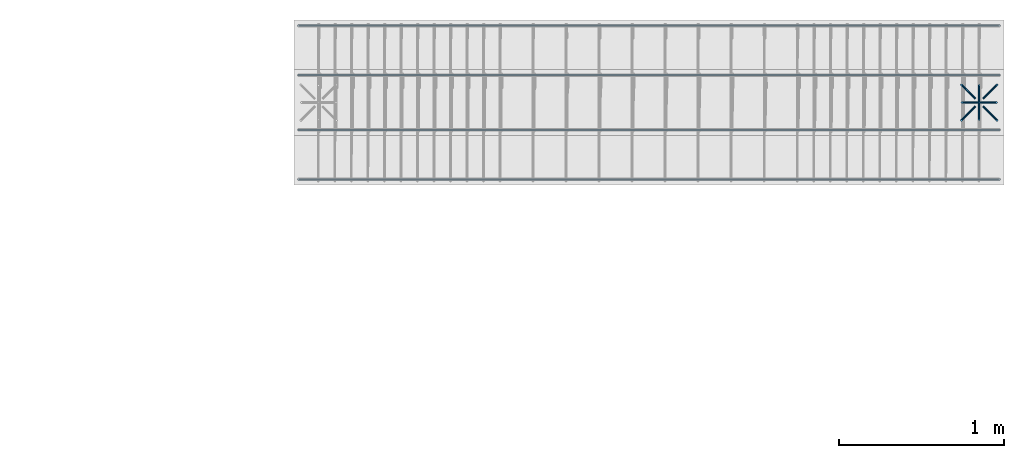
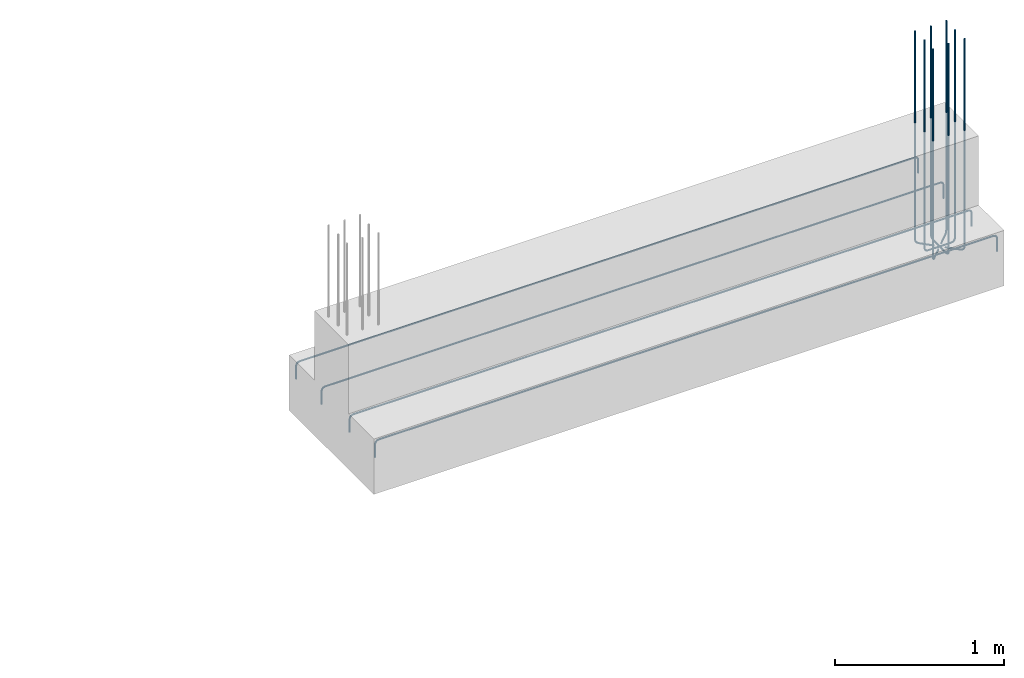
# One storey, part 23 of 23: 2 reinforcing bars.
"""IFC2X3 building model written with IfcOpenShell, lengths in metres."""

from ifc_helpers import new_model, entity, si_unit, direction, frame, origin, place, context, subcontext, project, spatial, shape, source, transform, mapped, element, save


model = new_model("IFC2X3")

# Units and contexts
model_context = context("Model", 3, precision=0.0, world=origin(), true_north=direction((0.0, 1.0)))
plan_context = context("Plan", 3, precision=0.0, world=origin(), true_north=direction((0.0, 1.0)))
body_context = subcontext(model_context, "Body", "Model", "MODEL_VIEW", scale=1.0)
ifc_project = project(units=[si_unit("LENGTHUNIT", "METRE"), si_unit("AREAUNIT", "SQUARE_METRE"), si_unit("VOLUMEUNIT", "CUBIC_METRE"), si_unit("PLANEANGLEUNIT", "RADIAN"), si_unit("THERMODYNAMICTEMPERATUREUNIT", "DEGREE_CELSIUS"), si_unit("FORCEUNIT", "NEWTON"), si_unit("MASSUNIT", "GRAM", prefix="KILO")], contexts=[model_context, plan_context])

# Site, building, storey
placement = place(None, origin())
site = spatial("IfcSite", under=ifc_project, at=placement, Name="Default Site", CompositionType="ELEMENT")
building = spatial("IfcBuilding", under=site, at=placement, Name="Default Building", CompositionType="ELEMENT")
storey_placement = place(placement, frame((0.0, 0.0, 0.0), z_axis=(1.0, 0.0, 0.0), x_axis=(0.0, 0.0, 1.0)))
storey = spatial("IfcBuildingStorey", under=building, at=storey_placement, Name="Piano 0", CompositionType="ELEMENT", Elevation=0.0)

# Reinforcing bars
shared_shape_1 = source(origin(), body_context, None, "AdvancedSweptSolid", [
    entity("IfcSweptDiskSolid", entity("IfcCompositeCurve", [entity("IfcCompositeCurveSegment", "CONTINUOUS", True, entity("IfcPolyline", [entity("IfcCartesianPoint", [0.0, 0.0, 0.0]), entity("IfcCartesianPoint", [0.0, 0.0, 0.096]), entity("IfcCartesianPoint", [0.003215, 0.0, 0.108]), entity("IfcCartesianPoint", [0.012, 0.0, 0.116785]), entity("IfcCartesianPoint", [0.024, 0.0, 0.12]), entity("IfcCartesianPoint", [0.122, 0.0, 0.12]), entity("IfcCartesianPoint", [4.122, 0.0, 0.12]), entity("IfcCartesianPoint", [4.22, 0.0, 0.12]), entity("IfcCartesianPoint", [4.232, 0.0, 0.116785]), entity("IfcCartesianPoint", [4.240785, 0.0, 0.108]), entity("IfcCartesianPoint", [4.244, 0.0, 0.096]), entity("IfcCartesianPoint", [4.244, 0.0, 0.0])]))], False), 0.006, 0.0, 0.0),
])
shared_shape_2 = source(origin(), body_context, None, "MappedRepresentation", [mapped(shared_shape_1, transform((32.378, 3.166, -0.662)))])
shared_shape_3 = source(origin(), body_context, None, "AdvancedSweptSolid", [
    entity("IfcSweptDiskSolid", entity("IfcCompositeCurve", [entity("IfcCompositeCurveSegment", "CONTINUOUS", True, entity("IfcPolyline", [entity("IfcCartesianPoint", [0.0, 0.0, 0.0]), entity("IfcCartesianPoint", [0.0, 0.0, 0.096]), entity("IfcCartesianPoint", [0.003215, 0.0, 0.108]), entity("IfcCartesianPoint", [0.012, 0.0, 0.116785]), entity("IfcCartesianPoint", [0.024, 0.0, 0.12]), entity("IfcCartesianPoint", [0.122, 0.0, 0.12]), entity("IfcCartesianPoint", [4.122, 0.0, 0.12]), entity("IfcCartesianPoint", [4.22, 0.0, 0.12]), entity("IfcCartesianPoint", [4.232, 0.0, 0.116785]), entity("IfcCartesianPoint", [4.240785, 0.0, 0.108]), entity("IfcCartesianPoint", [4.244, 0.0, 0.096]), entity("IfcCartesianPoint", [4.244, 0.0, 0.0])]))], False), 0.006, 0.0, 0.0),
])
shared_shape_4 = source(origin(), body_context, None, "MappedRepresentation", [mapped(shared_shape_3, transform((32.378, 3.466, -0.662)))])
shared_shape_5 = source(origin(), body_context, None, "AdvancedSweptSolid", [
    entity("IfcSweptDiskSolid", entity("IfcCompositeCurve", [entity("IfcCompositeCurveSegment", "CONTINUOUS", True, entity("IfcPolyline", [entity("IfcCartesianPoint", [0.0, 0.0, 0.0]), entity("IfcCartesianPoint", [0.0, 0.0, 0.096]), entity("IfcCartesianPoint", [0.003215, 0.0, 0.108]), entity("IfcCartesianPoint", [0.012, 0.0, 0.116785]), entity("IfcCartesianPoint", [0.024, 0.0, 0.12]), entity("IfcCartesianPoint", [0.122, 0.0, 0.12]), entity("IfcCartesianPoint", [4.122, 0.0, 0.12]), entity("IfcCartesianPoint", [4.22, 0.0, 0.12]), entity("IfcCartesianPoint", [4.232, 0.0, 0.116785]), entity("IfcCartesianPoint", [4.240785, 0.0, 0.108]), entity("IfcCartesianPoint", [4.244, 0.0, 0.096]), entity("IfcCartesianPoint", [4.244, 0.0, 0.0])]))], False), 0.006, 0.0, 0.0),
])
shared_shape_6 = source(origin(), body_context, None, "MappedRepresentation", [mapped(shared_shape_5, transform((32.378, 2.534, -0.662)))])
shared_shape_7 = source(origin(), body_context, None, "AdvancedSweptSolid", [
    entity("IfcSweptDiskSolid", entity("IfcCompositeCurve", [entity("IfcCompositeCurveSegment", "CONTINUOUS", True, entity("IfcPolyline", [entity("IfcCartesianPoint", [0.0, 0.0, 0.0]), entity("IfcCartesianPoint", [0.0, 0.0, 0.096]), entity("IfcCartesianPoint", [0.003215, 0.0, 0.108]), entity("IfcCartesianPoint", [0.012, 0.0, 0.116785]), entity("IfcCartesianPoint", [0.024, 0.0, 0.12]), entity("IfcCartesianPoint", [0.122, 0.0, 0.12]), entity("IfcCartesianPoint", [4.122, 0.0, 0.12]), entity("IfcCartesianPoint", [4.22, 0.0, 0.12]), entity("IfcCartesianPoint", [4.232, 0.0, 0.116785]), entity("IfcCartesianPoint", [4.240785, 0.0, 0.108]), entity("IfcCartesianPoint", [4.244, 0.0, 0.096]), entity("IfcCartesianPoint", [4.244, 0.0, 0.0])]))], False), 0.006, 0.0, 0.0),
])
shared_shape_8 = source(origin(), body_context, None, "MappedRepresentation", [mapped(shared_shape_7, transform((32.378, 2.834, -0.662)))])
element("IfcReinforcingBar", 1, at=placement, inside=storey, Name="Arm Generica; Trave:4 [Piano:0]", BarLength=17.91454, BarRole="NOTDEFINED", BarSurface="TEXTURED", NominalDiameter=0.012, shapes=[
    shape(body_context, None, "MappedRepresentation", [mapped(shared_shape_2, transform((0.0, 0.0, 0.0))), mapped(shared_shape_4, transform((0.0, 0.0, 0.0))), mapped(shared_shape_6, transform((0.0, 0.0, 0.0))), mapped(shared_shape_8, transform((0.0, 0.0, 0.0)))]),
])
shared_shape_9 = source(origin(), body_context, None, "AdvancedSweptSolid", [
    entity("IfcSweptDiskSolid", entity("IfcCompositeCurve", [entity("IfcCompositeCurveSegment", "CONTINUOUS", True, entity("IfcPolyline", [entity("IfcCartesianPoint", [0.0, 0.0, 0.0]), entity("IfcCartesianPoint", [-0.067882, -0.067882, 0.0]), entity("IfcCartesianPoint", [-0.076368, -0.076368, 0.003215]), entity("IfcCartesianPoint", [-0.082579, -0.082579, 0.012]), entity("IfcCartesianPoint", [-0.084853, -0.084853, 0.024]), entity("IfcCartesianPoint", [-0.084853, -0.084853, 1.526])]))], False), 0.006, 0.0, 0.0),
])
shared_shape_10 = source(origin(), body_context, None, "MappedRepresentation", [mapped(shared_shape_9, transform((36.477338, 2.977338, -0.866)))])
shared_shape_11 = source(origin(), body_context, None, "AdvancedSweptSolid", [
    entity("IfcSweptDiskSolid", entity("IfcCompositeCurve", [entity("IfcCompositeCurveSegment", "CONTINUOUS", True, entity("IfcPolyline", [entity("IfcCartesianPoint", [0.0, 0.0, 0.0]), entity("IfcCartesianPoint", [0.067882, -0.067882, 0.0]), entity("IfcCartesianPoint", [0.076368, -0.076368, 0.003215]), entity("IfcCartesianPoint", [0.082579, -0.082579, 0.012]), entity("IfcCartesianPoint", [0.084853, -0.084853, 0.024]), entity("IfcCartesianPoint", [0.084853, -0.084853, 1.526])]))], False), 0.006, 0.0, 0.0),
])
shared_shape_12 = source(origin(), body_context, None, "MappedRepresentation", [mapped(shared_shape_11, transform((36.522662, 2.977338, -0.866)))])
shared_shape_13 = source(origin(), body_context, None, "AdvancedSweptSolid", [
    entity("IfcSweptDiskSolid", entity("IfcCompositeCurve", [entity("IfcCompositeCurveSegment", "CONTINUOUS", True, entity("IfcPolyline", [entity("IfcCartesianPoint", [0.0, 0.0, 0.0]), entity("IfcCartesianPoint", [0.067882, 0.067882, 0.0]), entity("IfcCartesianPoint", [0.076368, 0.076368, 0.003215]), entity("IfcCartesianPoint", [0.082579, 0.082579, 0.012]), entity("IfcCartesianPoint", [0.084853, 0.084853, 0.024]), entity("IfcCartesianPoint", [0.084853, 0.084853, 1.526])]))], False), 0.006, 0.0, 0.0),
])
shared_shape_14 = source(origin(), body_context, None, "MappedRepresentation", [mapped(shared_shape_13, transform((36.522662, 3.022662, -0.866)))])
shared_shape_15 = source(origin(), body_context, None, "AdvancedSweptSolid", [
    entity("IfcSweptDiskSolid", entity("IfcCompositeCurve", [entity("IfcCompositeCurveSegment", "CONTINUOUS", True, entity("IfcPolyline", [entity("IfcCartesianPoint", [0.0, 0.0, 0.0]), entity("IfcCartesianPoint", [-0.067882, 0.067882, 0.0]), entity("IfcCartesianPoint", [-0.076368, 0.076368, 0.003215]), entity("IfcCartesianPoint", [-0.082579, 0.082579, 0.012]), entity("IfcCartesianPoint", [-0.084853, 0.084853, 0.024]), entity("IfcCartesianPoint", [-0.084853, 0.084853, 1.526])]))], False), 0.006, 0.0, 0.0),
])
shared_shape_16 = source(origin(), body_context, None, "MappedRepresentation", [mapped(shared_shape_15, transform((36.477338, 3.022662, -0.866)))])
shared_shape_17 = source(origin(), body_context, None, "AdvancedSweptSolid", [
    entity("IfcSweptDiskSolid", entity("IfcCompositeCurve", [entity("IfcCompositeCurveSegment", "CONTINUOUS", True, entity("IfcPolyline", [entity("IfcCartesianPoint", [0.0, 0.0, 0.0]), entity("IfcCartesianPoint", [0.0, -0.096, 0.0]), entity("IfcCartesianPoint", [0.0, -0.108, 0.003215]), entity("IfcCartesianPoint", [0.0, -0.116785, 0.012]), entity("IfcCartesianPoint", [0.0, -0.12, 0.024]), entity("IfcCartesianPoint", [0.0, -0.12, 1.526])]))], False), 0.006, 0.0, 0.0),
])
shared_shape_18 = source(origin(), body_context, None, "MappedRepresentation", [mapped(shared_shape_17, transform((36.5, 3.016, -0.866)))])
shared_shape_19 = source(origin(), body_context, None, "AdvancedSweptSolid", [
    entity("IfcSweptDiskSolid", entity("IfcCompositeCurve", [entity("IfcCompositeCurveSegment", "CONTINUOUS", True, entity("IfcPolyline", [entity("IfcCartesianPoint", [0.0, 0.0, 0.0]), entity("IfcCartesianPoint", [0.096, 0.0, 0.0]), entity("IfcCartesianPoint", [0.108, 0.0, 0.003215]), entity("IfcCartesianPoint", [0.116785, 0.0, 0.012]), entity("IfcCartesianPoint", [0.12, 0.0, 0.024]), entity("IfcCartesianPoint", [0.12, 0.0, 1.526])]))], False), 0.006, 0.0, 0.0),
])
shared_shape_20 = source(origin(), body_context, None, "MappedRepresentation", [mapped(shared_shape_19, transform((36.484, 3.0, -0.866)))])
shared_shape_21 = source(origin(), body_context, None, "AdvancedSweptSolid", [
    entity("IfcSweptDiskSolid", entity("IfcCompositeCurve", [entity("IfcCompositeCurveSegment", "CONTINUOUS", True, entity("IfcPolyline", [entity("IfcCartesianPoint", [0.0, 0.0, 0.0]), entity("IfcCartesianPoint", [0.0, 0.096, 0.0]), entity("IfcCartesianPoint", [0.0, 0.108, 0.003215]), entity("IfcCartesianPoint", [0.0, 0.116785, 0.012]), entity("IfcCartesianPoint", [0.0, 0.12, 0.024]), entity("IfcCartesianPoint", [0.0, 0.12, 1.526])]))], False), 0.006, 0.0, 0.0),
])
shared_shape_22 = source(origin(), body_context, None, "MappedRepresentation", [mapped(shared_shape_21, transform((36.5, 2.984, -0.866)))])
shared_shape_23 = source(origin(), body_context, None, "AdvancedSweptSolid", [
    entity("IfcSweptDiskSolid", entity("IfcCompositeCurve", [entity("IfcCompositeCurveSegment", "CONTINUOUS", True, entity("IfcPolyline", [entity("IfcCartesianPoint", [0.0, 0.0, 0.0]), entity("IfcCartesianPoint", [-0.096, 0.0, 0.0]), entity("IfcCartesianPoint", [-0.108, 0.0, 0.003215]), entity("IfcCartesianPoint", [-0.116785, 0.0, 0.012]), entity("IfcCartesianPoint", [-0.12, 0.0, 0.024]), entity("IfcCartesianPoint", [-0.12, 0.0, 1.526])]))], False), 0.006, 0.0, 0.0),
])
shared_shape_24 = source(origin(), body_context, None, "MappedRepresentation", [mapped(shared_shape_23, transform((36.516, 3.0, -0.866)))])
element("IfcReinforcingBar", 2, at=placement, inside=storey, Name="Arm Ancoraggio; Nodo:31 [Piano:0]", BarLength=13.168, BarSurface="TEXTURED", NominalDiameter=0.012, shapes=[
    shape(body_context, None, "MappedRepresentation", [mapped(shared_shape_10, transform((0.0, 0.0, 0.0))), mapped(shared_shape_12, transform((0.0, 0.0, 0.0))), mapped(shared_shape_14, transform((0.0, 0.0, 0.0))), mapped(shared_shape_16, transform((0.0, 0.0, 0.0))), mapped(shared_shape_18, transform((0.0, 0.0, 0.0))), mapped(shared_shape_20, transform((0.0, 0.0, 0.0))), mapped(shared_shape_22, transform((0.0, 0.0, 0.0))), mapped(shared_shape_24, transform((0.0, 0.0, 0.0)))]),
])

save(model, "model.ifc")
